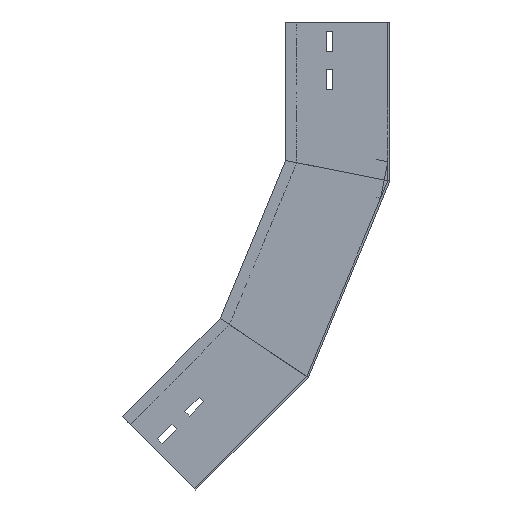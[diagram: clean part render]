
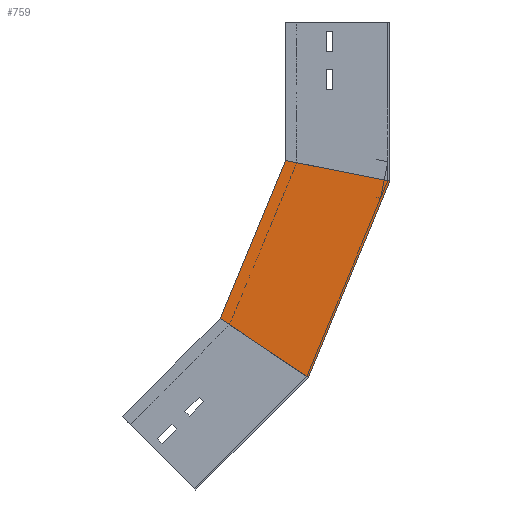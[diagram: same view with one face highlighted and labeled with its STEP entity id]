
A CAD part, left-side view. The second image highlights one B-rep face of the part: STEP entity #759.
In plain terms, the highlighted planar face has unit normal (-1, 0, 0) as drawn and (1, 0, 0) by its records, which use the part's own axes.
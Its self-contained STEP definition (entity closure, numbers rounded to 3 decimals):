
#137 = CARTESIAN_POINT ( 'NONE',  ( 0., 0., -172.1 ) ) ;
#213 = VECTOR ( 'NONE', #1246, 1000. ) ;
#222 = EDGE_CURVE ( 'NONE', #708, #880, #1073, .T. ) ;
#306 = EDGE_CURVE ( 'NONE', #907, #549, #1060, .T. ) ;
#361 = LINE ( 'NONE', #690, #213 ) ;
#384 = VECTOR ( 'NONE', #1289, 1000. ) ;
#390 = DIRECTION ( 'NONE',  ( 0., 0.383, -0.924 ) ) ;
#429 = CARTESIAN_POINT ( 'NONE',  ( 0., 0., -172.1 ) ) ;
#490 = ORIENTED_EDGE ( 'NONE', *, *, #1381, .T. ) ;
#527 = CARTESIAN_POINT ( 'NONE',  ( 0., 112.5, -149.722 ) ) ;
#549 = VERTEX_POINT ( 'NONE', #741 ) ;
#675 = ORIENTED_EDGE ( 'NONE', *, *, #306, .T. ) ;
#688 = ORIENTED_EDGE ( 'NONE', *, *, #222, .F. ) ;
#690 = CARTESIAN_POINT ( 'NONE',  ( 0., 125.326, -359.663 ) ) ;
#708 = VERTEX_POINT ( 'NONE', #527 ) ;
#737 = ORIENTED_EDGE ( 'NONE', *, *, #848, .F. ) ;
#741 = CARTESIAN_POINT ( 'NONE',  ( 0., 88.017, -384.592 ) ) ;
#759 = ADVANCED_FACE ( 'NONE', ( #867 ), #876, .F. ) ;
#762 = DIRECTION ( 'NONE',  ( -1., 0., 0. ) ) ;
#848 = EDGE_CURVE ( 'NONE', #880, #549, #361, .T. ) ;
#867 = FACE_OUTER_BOUND ( 'NONE', #1359, .T. ) ;
#876 = PLANE ( 'NONE',  #1118 ) ;
#880 = VERTEX_POINT ( 'NONE', #1425 ) ;
#907 = VERTEX_POINT ( 'NONE', #137 ) ;
#908 = LINE ( 'NONE', #1274, #384 ) ;
#913 = VECTOR ( 'NONE', #390, 1000. ) ;
#942 = CARTESIAN_POINT ( 'NONE',  ( 0., 0., -172.1 ) ) ;
#1060 = LINE ( 'NONE', #942, #913 ) ;
#1073 = LINE ( 'NONE', #1179, #1454 ) ;
#1118 = AXIS2_PLACEMENT_3D ( 'NONE', #429, #762, #1228 ) ;
#1179 = CARTESIAN_POINT ( 'NONE',  ( 0., 103.936, -129.048 ) ) ;
#1228 = DIRECTION ( 'NONE',  ( 0., 0., 1. ) ) ;
#1246 = DIRECTION ( 'NONE',  ( 0., -0.831, -0.556 ) ) ;
#1274 = CARTESIAN_POINT ( 'NONE',  ( 0., 32.93, -165.55 ) ) ;
#1275 = DIRECTION ( 'NONE',  ( 0., 0.383, -0.924 ) ) ;
#1289 = DIRECTION ( 'NONE',  ( 0., -0.981, -0.195 ) ) ;
#1359 = EDGE_LOOP ( 'NONE', ( #688, #490, #675, #737 ) ) ;
#1381 = EDGE_CURVE ( 'NONE', #708, #907, #908, .T. ) ;
#1425 = CARTESIAN_POINT ( 'NONE',  ( 0., 183.39, -320.866 ) ) ;
#1454 = VECTOR ( 'NONE', #1275, 1000. ) ;
